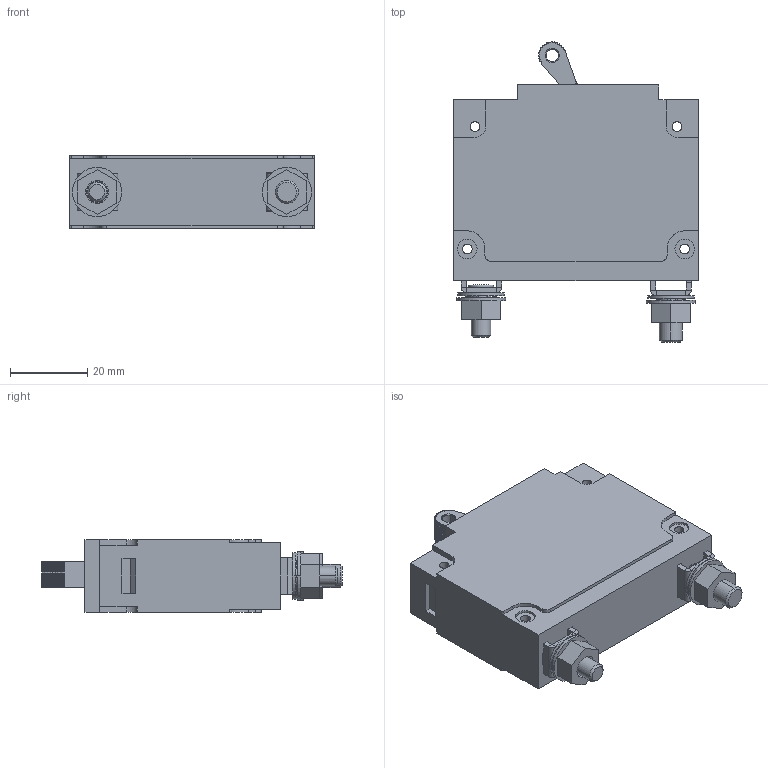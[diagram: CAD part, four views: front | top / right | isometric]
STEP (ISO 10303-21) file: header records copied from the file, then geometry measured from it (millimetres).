
FILE_DESCRIPTION((''),'2;1');
FILE_NAME('CR_MODEL_1PSW0001','2008-07-08T',('davidparker'),(''),'PRO/ENGINEER BY PARAMETRIC TECHNOLOGY CORPORATION, 2008010','PRO/ENGINEER BY PARAMETRIC TECHNOLOGY CORPORATION, 2008010','');
FILE_SCHEMA(('CONFIG_CONTROL_DESIGN'));
Length unit declared in the file: inch
Products named in the file (1): CR_MODEL_1PSW0001
Bounding box: 63.5 x 77.93 x 18.9 mm (x, y, z)
Volume: 28435.4 mm3; surface area: 25361.5 mm2
Topology: 3 solids, 3 shells, 1336 faces, 3709 edges, 2398 vertices
Faces by surface type: plane 935, cylinder 265, bspline 99, cone 28, torus 9
Entity records: 45351 total; most frequent: CARTESIAN_POINT 10940, ORIENTED_EDGE 7418, DIRECTION 6745, EDGE_CURVE 3709, VECTOR 2939, LINE 2939, VERTEX_POINT 2398, AXIS2_PLACEMENT_3D 1903
